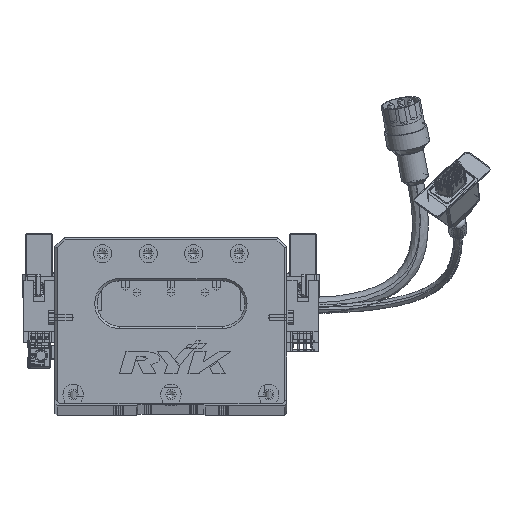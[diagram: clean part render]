
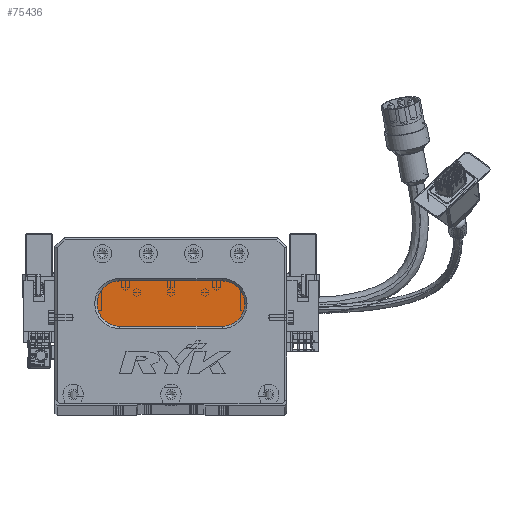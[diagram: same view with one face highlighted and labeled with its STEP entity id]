
A CAD part, top view. The second image highlights one B-rep face of the part: STEP entity #75436.
In plain terms, the highlighted planar face has unit normal (0, 0, 1) as drawn and (0, 0, -1) by its records, which use the part's own axes.
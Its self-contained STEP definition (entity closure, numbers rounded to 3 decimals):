
#1192 = LINE ( 'NONE', #81227, #49016 ) ;
#5289 = CARTESIAN_POINT ( 'NONE',  ( 73.5, 34., 13. ) ) ;
#10278 = CIRCLE ( 'NONE', #68958, 10. ) ;
#10692 = ORIENTED_EDGE ( 'NONE', *, *, #65878, .T. ) ;
#13458 = EDGE_CURVE ( 'NONE', #82419, #68674, #68478, .T. ) ;
#14879 = DIRECTION ( 'NONE',  ( -1., 0., 0. ) ) ;
#24071 = DIRECTION ( 'NONE',  ( 0., 0., -1. ) ) ;
#24400 = CARTESIAN_POINT ( 'NONE',  ( 73.5, 44., 13. ) ) ;
#26100 = ORIENTED_EDGE ( 'NONE', *, *, #32791, .T. ) ;
#27700 = CARTESIAN_POINT ( 'NONE',  ( 28.5, 44., 13. ) ) ;
#32563 = DIRECTION ( 'NONE',  ( -1., 0., 0. ) ) ;
#32791 = EDGE_CURVE ( 'NONE', #78743, #62370, #1192, .T. ) ;
#32846 = CARTESIAN_POINT ( 'NONE',  ( 73.5, 44., 13. ) ) ;
#33398 = PLANE ( 'NONE',  #59760 ) ;
#35120 = CIRCLE ( 'NONE', #66463, 10. ) ;
#36130 = DIRECTION ( 'NONE',  ( -1., 0., 0. ) ) ;
#39420 = CARTESIAN_POINT ( 'NONE',  ( 73.5, 54., 13. ) ) ;
#41027 = CARTESIAN_POINT ( 'NONE',  ( 28.5, 34., 13. ) ) ;
#46146 = DIRECTION ( 'NONE',  ( 0., 0., -1. ) ) ;
#48051 = EDGE_LOOP ( 'NONE', ( #10692, #26100, #64694, #74038, #80167 ) ) ;
#49016 = VECTOR ( 'NONE', #36130, 1000. ) ;
#50785 = CARTESIAN_POINT ( 'NONE',  ( 28.5, 44., 13. ) ) ;
#53088 = DIRECTION ( 'NONE',  ( 1., 0., 0. ) ) ;
#55398 = EDGE_CURVE ( 'NONE', #63861, #82419, #67396, .T. ) ;
#55467 = FACE_OUTER_BOUND ( 'NONE', #48051, .T. ) ;
#59760 = AXIS2_PLACEMENT_3D ( 'NONE', #32846, #46146, #32563 ) ;
#62362 = VECTOR ( 'NONE', #53088, 1000. ) ;
#62370 = VERTEX_POINT ( 'NONE', #41027 ) ;
#63861 = VERTEX_POINT ( 'NONE', #81220 ) ;
#64694 = ORIENTED_EDGE ( 'NONE', *, *, #71345, .T. ) ;
#64805 = CARTESIAN_POINT ( 'NONE',  ( 73.5, 54., 13. ) ) ;
#65878 = EDGE_CURVE ( 'NONE', #68674, #78743, #35120, .T. ) ;
#66463 = AXIS2_PLACEMENT_3D ( 'NONE', #24400, #71426, #83166 ) ;
#67396 = CIRCLE ( 'NONE', #69093, 10. ) ;
#68478 = LINE ( 'NONE', #39420, #62362 ) ;
#68674 = VERTEX_POINT ( 'NONE', #64805 ) ;
#68958 = AXIS2_PLACEMENT_3D ( 'NONE', #27700, #73905, #14879 ) ;
#69093 = AXIS2_PLACEMENT_3D ( 'NONE', #50785, #24071, #70768 ) ;
#70768 = DIRECTION ( 'NONE',  ( -1., 0., 0. ) ) ;
#71345 = EDGE_CURVE ( 'NONE', #62370, #63861, #10278, .T. ) ;
#71426 = DIRECTION ( 'NONE',  ( 0., 0., -1. ) ) ;
#73905 = DIRECTION ( 'NONE',  ( 0., 0., -1. ) ) ;
#74038 = ORIENTED_EDGE ( 'NONE', *, *, #55398, .T. ) ;
#75436 = ADVANCED_FACE ( 'NONE', ( #55467 ), #33398, .T. ) ;
#78743 = VERTEX_POINT ( 'NONE', #5289 ) ;
#80167 = ORIENTED_EDGE ( 'NONE', *, *, #13458, .T. ) ;
#80892 = CARTESIAN_POINT ( 'NONE',  ( 28.5, 54., 13. ) ) ;
#81220 = CARTESIAN_POINT ( 'NONE',  ( 18.5, 44., 13. ) ) ;
#81227 = CARTESIAN_POINT ( 'NONE',  ( 73.5, 34., 13. ) ) ;
#82419 = VERTEX_POINT ( 'NONE', #80892 ) ;
#83166 = DIRECTION ( 'NONE',  ( -1., 0., 0. ) ) ;
